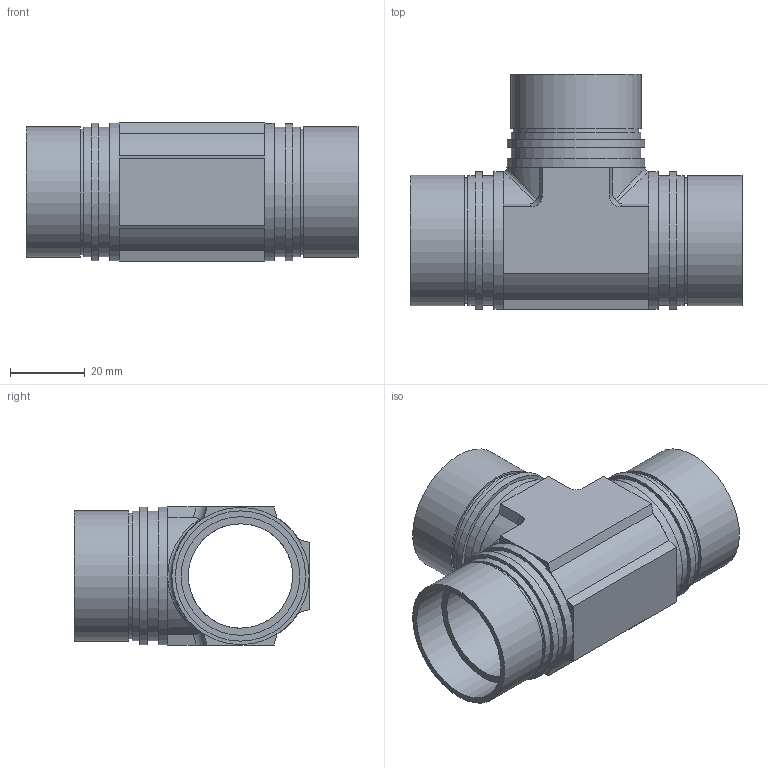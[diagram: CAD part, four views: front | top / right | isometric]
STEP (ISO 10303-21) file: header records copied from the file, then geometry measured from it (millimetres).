
FILE_DESCRIPTION (( 'STEP AP203' ), '1' );
FILE_NAME ('70-31.8UE-P.STEP', '2013-09-19T02:12:49', ( '' ), ( '' ), 'SwSTEP 2.0', 'SolidWorks 2012', '' );
FILE_SCHEMA (( 'CONFIG_CONTROL_DESIGN' ));
Length unit declared in the file: millimetre
Products named in the file (2): 70-31.8UE-P; 70-31.8UE-P^70-31.8UE-P
Assembly tree (1 placements, depth 2):
  70-31.8UE-P
    70-31.8UE-P^70-31.8UE-P
Bounding box: 89 x 63 x 37 mm (x, y, z)
Volume: 40961.7 mm3; surface area: 25756.9 mm2
Topology: 1 solids, 1 shells, 78 faces, 166 edges, 111 vertices
Faces by surface type: plane 39, cylinder 37, bspline 2
Full cylindrical faces by diameter (mm): 28 x2, 31.8 x3, 33.75 x3, 34.8 x6, 34.9 x3, 36.8 x6
Entity records: 2342 total; most frequent: CARTESIAN_POINT 576, DIRECTION 330, ORIENTED_EDGE 278, EDGE_CURVE 139, AXIS2_PLACEMENT_3D 137, EDGE_LOOP 126, VERTEX_POINT 107, FACE_OUTER_BOUND 101
